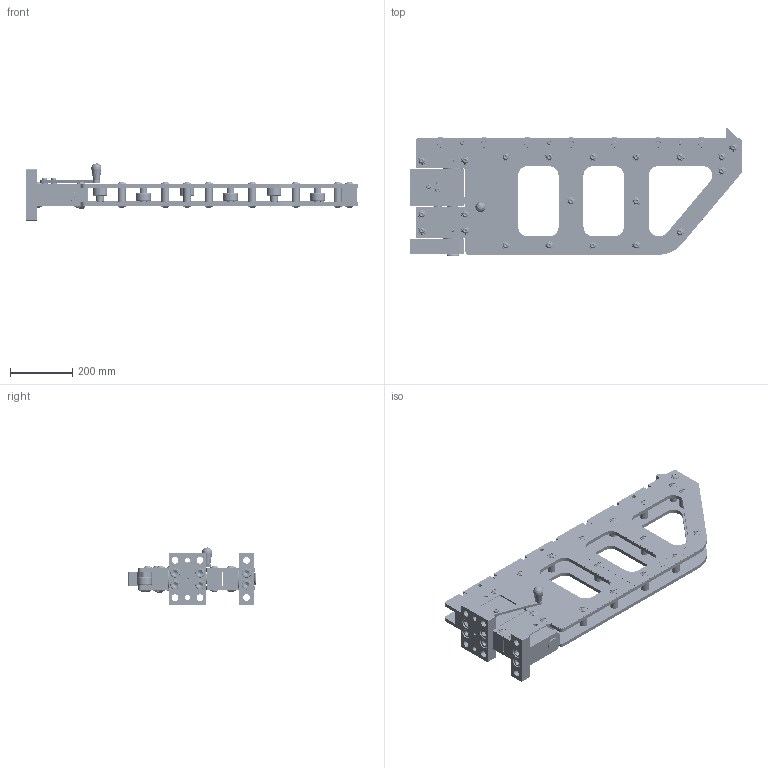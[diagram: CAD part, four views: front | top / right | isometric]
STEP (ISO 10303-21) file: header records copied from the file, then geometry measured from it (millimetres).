
FILE_DESCRIPTION(/* description */ ('CONSOLE PLATE LEFT'),/* implementation_level */ '2;1');
FILE_NAME(/* name */ 'C:\Users\jaccow\AppData\Local\Temp\Cadac\NetworkPub\step\FB714-950.iam.stp',/* time_stamp */ '2017-12-14T13:19:26+01:00',/* author */ ('yue'),/* organization */ (''),/* preprocessor_version */ 'ST-DEVELOPER v16.1',/* originating_system */ 'Autodesk Inventor 2016',/* authorisation */ '');
FILE_SCHEMA (('AUTOMOTIVE_DESIGN { 1 0 10303 214 3 1 1 }'));
Products named in the file (40): FB718-101; FB698-186; CCE1230-028-9A; FB836-690; FB699-690; FB704-044; FB701-104; FB702-104; DQ1513-281; FB720-101; DQ1533-120; CAE1120-1081A; FB867-026; FB868-026; FB833-298; FB716-950; FB646-101; FB835-690; CCA2031-0281A; FB647-070; PP0327-070; CAA1635-0612C; PP0329-155; PP0137-155; CBA1025-0281B; FB649-061; PP0140-110; PP0305-108; PP0379-130; PP0380-108; FB644-950; PP0310-071; FB705-104; CCA819-0285C; FB707-101; FB708-690; CCA2033-0281A; FB706-950; FB709-104; FB714-950
Assembly tree (133 placements, depth 3):
  FB714-950
    FB716-950
      FB718-101  x2
      FB698-186  x14
      CCE1230-028-9A  x45
      FB836-690
      FB699-690  x2
      FB704-044
      FB701-104  x7
      FB702-104  x7
      DQ1513-281  x7
      FB720-101
      DQ1533-120  x3
      CAE1120-1081A  x3
      FB867-026
      FB868-026
      FB833-298
    FB644-950
      FB646-101
      FB835-690
      CCA2031-0281A  x4
      FB647-070
      PP0327-070
      CAA1635-0612C
      PP0329-155  x2
      PP0137-155
      CBA1025-0281B
      FB649-061
      PP0140-110
      PP0305-108  x2
      PP0379-130  x2
      PP0380-108  x2
    PP0310-071  x2
    FB705-104
    CCA819-0285C  x4
    FB706-950
      FB707-101
      FB708-690
      CCA2033-0281A  x2
      PP0329-155
    FB709-104
Bounding box: 1068 x 411.67 x 184 mm (x, y, z)
Volume: 10815925.2 mm3; surface area: 2597441.9 mm2
Topology: 160 solids, 160 shells, 5264 faces, 12633 edges, 8195 vertices
Faces by surface type: plane 2833, bspline 1093, cylinder 596, cone 553, torus 188, sphere 1
Full cylindrical faces by diameter (mm): 1.541 x7, 3 x2, 3.4 x7, 6.466 x2, 6.647 x6, 6.648 x1, 8 x6, 8.376 x1, 8.4 x1, 9.42 x2, 10 x9, 10.1 x1, 10.106 x21, 10.5 x5, 12 x48, 12.5 x2, 13 x3, 13.5 x37, 14 x2, 15 x1, 16 x4, 16.1 x3, 17.294 x6, 19.95 x7, 20 x41, 20.1 x1, 21 x4, 21.5 x12, 22.425 x1, 24 x3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
Entity records: 109823 total; most frequent: CARTESIAN_POINT 33258, ORIENTED_EDGE 16792, DIRECTION 12178, EDGE_CURVE 8387, VERTEX_POINT 5717, LINE 5714, VECTOR 5714, EDGE_LOOP 4117
